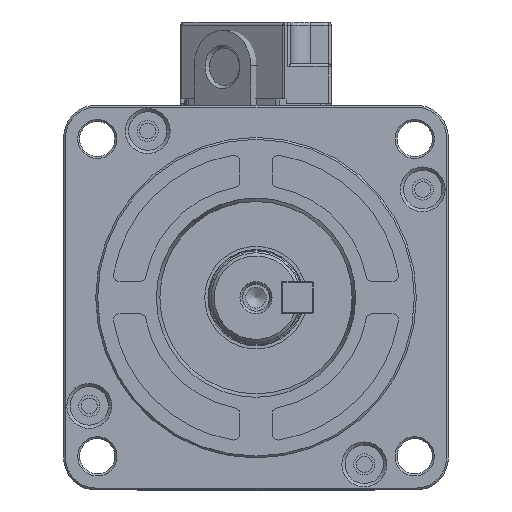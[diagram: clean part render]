
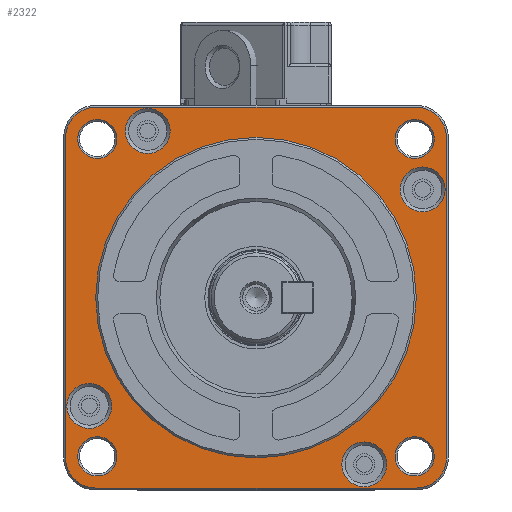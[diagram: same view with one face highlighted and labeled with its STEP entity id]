
A CAD part, left-side view. The second image highlights one B-rep face of the part: STEP entity #2322.
In plain terms, the highlighted planar face has unit normal (-1, 0, 0).
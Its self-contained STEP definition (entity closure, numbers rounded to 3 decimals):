
#2322 = ADVANCED_FACE( '', ( #5034, #5035, #5036, #5037, #5038, #5039, #5040, #5041, #5042, #5043 ), #5044, .T. );
#5034 = FACE_BOUND( '', #12596, .T. );
#5035 = FACE_BOUND( '', #12597, .T. );
#5036 = FACE_BOUND( '', #12598, .T. );
#5037 = FACE_BOUND( '', #12599, .T. );
#5038 = FACE_OUTER_BOUND( '', #12600, .T. );
#5039 = FACE_BOUND( '', #12601, .T. );
#5040 = FACE_BOUND( '', #12602, .T. );
#5041 = FACE_BOUND( '', #12603, .T. );
#5042 = FACE_BOUND( '', #12604, .T. );
#5043 = FACE_BOUND( '', #12605, .T. );
#5044 = PLANE( '', #12606 );
#12596 = EDGE_LOOP( '', ( #21636 ) );
#12597 = EDGE_LOOP( '', ( #21637 ) );
#12598 = EDGE_LOOP( '', ( #21638 ) );
#12599 = EDGE_LOOP( '', ( #21639 ) );
#12600 = EDGE_LOOP( '', ( #21640, #21641, #21642, #21643, #21644, #21645, #21646, #21647 ) );
#12601 = EDGE_LOOP( '', ( #21648 ) );
#12602 = EDGE_LOOP( '', ( #21649 ) );
#12603 = EDGE_LOOP( '', ( #21650 ) );
#12604 = EDGE_LOOP( '', ( #21651 ) );
#12605 = EDGE_LOOP( '', ( #21652 ) );
#12606 = AXIS2_PLACEMENT_3D( '', #21653, #21654, #21655 );
#21636 = ORIENTED_EDGE( '', *, *, #27602, .T. );
#21637 = ORIENTED_EDGE( '', *, *, #25648, .T. );
#21638 = ORIENTED_EDGE( '', *, *, #27603, .T. );
#21639 = ORIENTED_EDGE( '', *, *, #26049, .T. );
#21640 = ORIENTED_EDGE( '', *, *, #27604, .F. );
#21641 = ORIENTED_EDGE( '', *, *, #27605, .F. );
#21642 = ORIENTED_EDGE( '', *, *, #27341, .F. );
#21643 = ORIENTED_EDGE( '', *, *, #27606, .F. );
#21644 = ORIENTED_EDGE( '', *, *, #27607, .F. );
#21645 = ORIENTED_EDGE( '', *, *, #27608, .F. );
#21646 = ORIENTED_EDGE( '', *, *, #27328, .F. );
#21647 = ORIENTED_EDGE( '', *, *, #27600, .F. );
#21648 = ORIENTED_EDGE( '', *, *, #27609, .F. );
#21649 = ORIENTED_EDGE( '', *, *, #27610, .F. );
#21650 = ORIENTED_EDGE( '', *, *, #27611, .F. );
#21651 = ORIENTED_EDGE( '', *, *, #26928, .F. );
#21652 = ORIENTED_EDGE( '', *, *, #27612, .T. );
#21653 = CARTESIAN_POINT( '', ( 3., 0., 12.5 ) );
#21654 = DIRECTION( '', ( -1., 0., 0. ) );
#21655 = DIRECTION( '', ( 0., -1., 0. ) );
#25648 = EDGE_CURVE( '', #29048, #29048, #29049, .F. );
#26049 = EDGE_CURVE( '', #29740, #29740, #29741, .F. );
#26928 = EDGE_CURVE( '', #31102, #31102, #31103, .T. );
#27328 = EDGE_CURVE( '', #31671, #31673, #31674, .F. );
#27341 = EDGE_CURVE( '', #31690, #31693, #31694, .F. );
#27600 = EDGE_CURVE( '', #32022, #31671, #32024, .F. );
#27602 = EDGE_CURVE( '', #32026, #32026, #32027, .F. );
#27603 = EDGE_CURVE( '', #32028, #32028, #32029, .F. );
#27604 = EDGE_CURVE( '', #32030, #32022, #32031, .F. );
#27605 = EDGE_CURVE( '', #31693, #32030, #32032, .F. );
#27606 = EDGE_CURVE( '', #32033, #31690, #32034, .F. );
#27607 = EDGE_CURVE( '', #32035, #32033, #32036, .F. );
#27608 = EDGE_CURVE( '', #31673, #32035, #32037, .F. );
#27609 = EDGE_CURVE( '', #32038, #32038, #32039, .T. );
#27610 = EDGE_CURVE( '', #32040, #32040, #32041, .T. );
#27611 = EDGE_CURVE( '', #32042, #32042, #32043, .T. );
#27612 = EDGE_CURVE( '', #32044, #32044, #32045, .T. );
#29048 = VERTEX_POINT( '', #34689 );
#29049 = CIRCLE( '', #34690, 3.5 );
#29740 = VERTEX_POINT( '', #36869 );
#29741 = CIRCLE( '', #36870, 3.5 );
#31102 = VERTEX_POINT( '', #41091 );
#31103 = CIRCLE( '', #41092, 3.05 );
#31671 = VERTEX_POINT( '', #42650 );
#31673 = VERTEX_POINT( '', #42653 );
#31674 = CIRCLE( '', #42654, 4.7 );
#31690 = VERTEX_POINT( '', #42725 );
#31693 = VERTEX_POINT( '', #42729 );
#31694 = CIRCLE( '', #42730, 4.7 );
#32022 = VERTEX_POINT( '', #44014 );
#32024 = LINE( '', #44017, #44018 );
#32026 = VERTEX_POINT( '', #44020 );
#32027 = CIRCLE( '', #44021, 3.5 );
#32028 = VERTEX_POINT( '', #44022 );
#32029 = CIRCLE( '', #44023, 3.5 );
#32030 = VERTEX_POINT( '', #44024 );
#32031 = CIRCLE( '', #44025, 4.7 );
#32032 = LINE( '', #44026, #44027 );
#32033 = VERTEX_POINT( '', #44028 );
#32034 = LINE( '', #44029, #44030 );
#32035 = VERTEX_POINT( '', #44031 );
#32036 = CIRCLE( '', #44032, 4.7 );
#32037 = LINE( '', #44033, #44034 );
#32038 = VERTEX_POINT( '', #44035 );
#32039 = CIRCLE( '', #44036, 3.05 );
#32040 = VERTEX_POINT( '', #44037 );
#32041 = CIRCLE( '', #44038, 3.05 );
#32042 = VERTEX_POINT( '', #44039 );
#32043 = CIRCLE( '', #44040, 3.05 );
#32044 = VERTEX_POINT( '', #44041 );
#32045 = CIRCLE( '', #44042, 25. );
#34689 = CARTESIAN_POINT( '', ( 3., -20.384, -25.999 ) );
#34690 = AXIS2_PLACEMENT_3D( '', #47756, #47757, #47758 );
#36869 = CARTESIAN_POINT( '', ( 3., 13.384, 25.999 ) );
#36870 = AXIS2_PLACEMENT_3D( '', #48285, #48286, #48287 );
#41091 = CARTESIAN_POINT( '', ( 3., -27.799, -24.749 ) );
#41092 = AXIS2_PLACEMENT_3D( '', #49409, #49410, #49411 );
#42650 = CARTESIAN_POINT( '', ( 3., -25., 29.7 ) );
#42653 = CARTESIAN_POINT( '', ( 3., -29.7, 25. ) );
#42654 = AXIS2_PLACEMENT_3D( '', #49924, #49925, #49926 );
#42725 = CARTESIAN_POINT( '', ( 3., 25., -29.7 ) );
#42729 = CARTESIAN_POINT( '', ( 3., 29.7, -25. ) );
#42730 = AXIS2_PLACEMENT_3D( '', #49941, #49942, #49943 );
#44014 = CARTESIAN_POINT( '', ( 3., 25., 29.7 ) );
#44017 = CARTESIAN_POINT( '', ( 3., -30., 29.7 ) );
#44018 = VECTOR( '', #50273, 1000. );
#44020 = CARTESIAN_POINT( '', ( 3., 22.499, -16.884 ) );
#44021 = AXIS2_PLACEMENT_3D( '', #50274, #50275, #50276 );
#44022 = CARTESIAN_POINT( '', ( 3., -29.499, 16.884 ) );
#44023 = AXIS2_PLACEMENT_3D( '', #50277, #50278, #50279 );
#44024 = CARTESIAN_POINT( '', ( 3., 29.7, 25. ) );
#44025 = AXIS2_PLACEMENT_3D( '', #50280, #50281, #50282 );
#44026 = CARTESIAN_POINT( '', ( 3., 29.7, 30. ) );
#44027 = VECTOR( '', #50283, 1000. );
#44028 = CARTESIAN_POINT( '', ( 3., -25., -29.7 ) );
#44029 = CARTESIAN_POINT( '', ( 3., 30., -29.7 ) );
#44030 = VECTOR( '', #50284, 1000. );
#44031 = CARTESIAN_POINT( '', ( 3., -29.7, -25. ) );
#44032 = AXIS2_PLACEMENT_3D( '', #50285, #50286, #50287 );
#44033 = CARTESIAN_POINT( '', ( 3., -29.7, -30. ) );
#44034 = VECTOR( '', #50288, 1000. );
#44035 = CARTESIAN_POINT( '', ( 3., 21.699, -24.749 ) );
#44036 = AXIS2_PLACEMENT_3D( '', #50289, #50290, #50291 );
#44037 = CARTESIAN_POINT( '', ( 3., 21.699, 24.749 ) );
#44038 = AXIS2_PLACEMENT_3D( '', #50292, #50293, #50294 );
#44039 = CARTESIAN_POINT( '', ( 3., -27.799, 24.749 ) );
#44040 = AXIS2_PLACEMENT_3D( '', #50295, #50296, #50297 );
#44041 = CARTESIAN_POINT( '', ( 3., 0., 25. ) );
#44042 = AXIS2_PLACEMENT_3D( '', #50298, #50299, #50300 );
#47756 = CARTESIAN_POINT( '', ( 3., -16.884, -25.999 ) );
#47757 = DIRECTION( '', ( -1., 0., 0. ) );
#47758 = DIRECTION( '', ( 0., -1., 0. ) );
#48285 = CARTESIAN_POINT( '', ( 3., 16.884, 25.999 ) );
#48286 = DIRECTION( '', ( -1., 0., 0. ) );
#48287 = DIRECTION( '', ( 0., -1., 0. ) );
#49409 = CARTESIAN_POINT( '', ( 3., -24.749, -24.749 ) );
#49410 = DIRECTION( '', ( -1., 0., 0. ) );
#49411 = DIRECTION( '', ( 0., -1., 0. ) );
#49924 = CARTESIAN_POINT( '', ( 3., -25., 25. ) );
#49925 = DIRECTION( '', ( -1., 0., 0. ) );
#49926 = DIRECTION( '', ( 0., -1., 0. ) );
#49941 = CARTESIAN_POINT( '', ( 3., 25., -25. ) );
#49942 = DIRECTION( '', ( -1., 0., 0. ) );
#49943 = DIRECTION( '', ( 0., -1., 0. ) );
#50273 = DIRECTION( '', ( 0., 1., 0. ) );
#50274 = CARTESIAN_POINT( '', ( 3., 25.999, -16.884 ) );
#50275 = DIRECTION( '', ( -1., 0., 0. ) );
#50276 = DIRECTION( '', ( 0., -1., 0. ) );
#50277 = CARTESIAN_POINT( '', ( 3., -25.999, 16.884 ) );
#50278 = DIRECTION( '', ( -1., 0., 0. ) );
#50279 = DIRECTION( '', ( 0., -1., 0. ) );
#50280 = CARTESIAN_POINT( '', ( 3., 25., 25. ) );
#50281 = DIRECTION( '', ( -1., 0., 0. ) );
#50282 = DIRECTION( '', ( 0., -1., 0. ) );
#50283 = DIRECTION( '', ( 0., 0., -1. ) );
#50284 = DIRECTION( '', ( 0., -1., 0. ) );
#50285 = CARTESIAN_POINT( '', ( 3., -25., -25. ) );
#50286 = DIRECTION( '', ( -1., 0., 0. ) );
#50287 = DIRECTION( '', ( 0., -1., 0. ) );
#50288 = DIRECTION( '', ( 0., 0., 1. ) );
#50289 = CARTESIAN_POINT( '', ( 3., 24.749, -24.749 ) );
#50290 = DIRECTION( '', ( -1., 0., 0. ) );
#50291 = DIRECTION( '', ( 0., -1., 0. ) );
#50292 = CARTESIAN_POINT( '', ( 3., 24.749, 24.749 ) );
#50293 = DIRECTION( '', ( -1., 0., 0. ) );
#50294 = DIRECTION( '', ( 0., -1., 0. ) );
#50295 = CARTESIAN_POINT( '', ( 3., -24.749, 24.749 ) );
#50296 = DIRECTION( '', ( -1., 0., 0. ) );
#50297 = DIRECTION( '', ( 0., -1., 0. ) );
#50298 = CARTESIAN_POINT( '', ( 3., 0., 0. ) );
#50299 = DIRECTION( '', ( 1., 0., 0. ) );
#50300 = DIRECTION( '', ( 0., 0., 1. ) );
